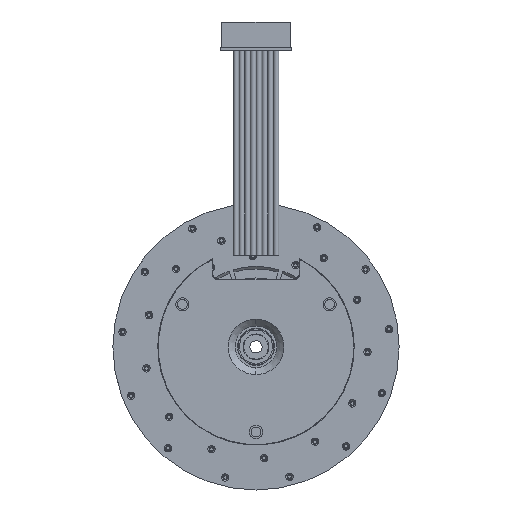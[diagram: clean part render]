
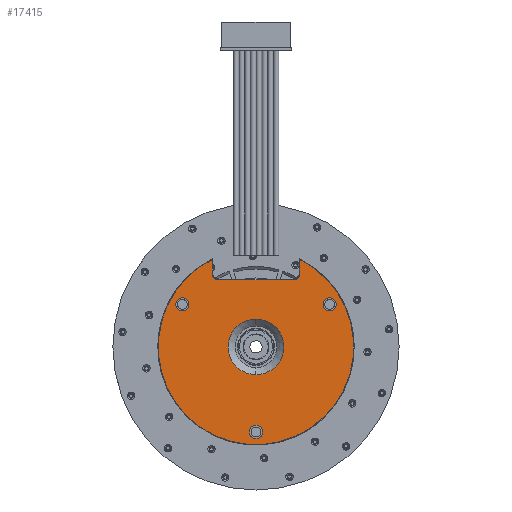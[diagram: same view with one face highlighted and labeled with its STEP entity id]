
A CAD part, front view. The second image highlights one B-rep face of the part: STEP entity #17415.
In plain terms, the highlighted planar face has unit normal (0, -1, 0).
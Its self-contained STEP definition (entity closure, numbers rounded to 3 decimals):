
#15933=CARTESIAN_POINT('',(0.,-8.381,
0.));
#15934=DIRECTION('',(0.,1.,0.));
#15935=DIRECTION('',(0.45,0.,0.893));
#15936=AXIS2_PLACEMENT_3D('',#15933,#15934,#15935);
#15938=CARTESIAN_POINT('',(0.,-8.381,
0.));
#15939=DIRECTION('',(0.,1.,0.));
#15940=DIRECTION('',(-0.432,0.,-0.902));
#15941=AXIS2_PLACEMENT_3D('',#15938,#15939,#15940);
#15943=CARTESIAN_POINT('',(0.,-8.381,
0.));
#15944=DIRECTION('',(0.,1.,0.));
#15945=DIRECTION('',(-0.45,0.,-0.893));
#15946=AXIS2_PLACEMENT_3D('',#15943,#15944,#15945);
#15948=CARTESIAN_POINT('',(-10.746,-8.381,
18.018));
#15949=CARTESIAN_POINT('',(-10.746,-8.381,
17.868));
#15950=CARTESIAN_POINT('',(-10.707,-8.381,
17.582));
#15951=CARTESIAN_POINT('',(-10.539,-8.381,
17.18));
#15952=CARTESIAN_POINT('',(-10.276,-8.381,
16.838));
#15953=CARTESIAN_POINT('',(-9.934,-8.381,
16.575));
#15954=CARTESIAN_POINT('',(-9.531,-8.381,
16.407));
#15955=CARTESIAN_POINT('',(-9.245,-8.381,
16.368));
#15956=CARTESIAN_POINT('',(-9.096,-8.381,
16.368));
#15958=CARTESIAN_POINT('',(9.096,-8.381,
16.368));
#15959=CARTESIAN_POINT('',(9.245,-8.381,
16.368));
#15960=CARTESIAN_POINT('',(9.531,-8.381,
16.407));
#15961=CARTESIAN_POINT('',(9.934,-8.381,
16.574));
#15962=CARTESIAN_POINT('',(10.275,-8.381,
16.837));
#15963=CARTESIAN_POINT('',(10.539,-8.381,
17.179));
#15964=CARTESIAN_POINT('',(10.707,-8.381,
17.582));
#15965=CARTESIAN_POINT('',(10.746,-8.381,
17.868));
#15966=CARTESIAN_POINT('',(10.746,-8.381,
18.018));
#15968=CARTESIAN_POINT('',(18.013,-8.381,
10.4));
#15969=DIRECTION('',(0.,-1.,0.));
#15970=DIRECTION('',(1.,0.,0.));
#15971=AXIS2_PLACEMENT_3D('',#15968,#15969,#15970);
#15973=CARTESIAN_POINT('',(18.013,-8.381,
10.4));
#15974=DIRECTION('',(0.,-1.,0.));
#15975=DIRECTION('',(-1.,0.,0.));
#15976=AXIS2_PLACEMENT_3D('',#15973,#15974,#15975);
#15978=CARTESIAN_POINT('',(-18.013,-8.381,
10.4));
#15979=DIRECTION('',(0.,-1.,0.));
#15980=DIRECTION('',(1.,0.,0.));
#15981=AXIS2_PLACEMENT_3D('',#15978,#15979,#15980);
#15983=CARTESIAN_POINT('',(-18.013,-8.381,
10.4));
#15984=DIRECTION('',(0.,-1.,0.));
#15985=DIRECTION('',(-1.,0.,0.));
#15986=AXIS2_PLACEMENT_3D('',#15983,#15984,#15985);
#15988=CARTESIAN_POINT('',(0.,-8.381,
-20.8));
#15989=DIRECTION('',(0.,-1.,0.));
#15990=DIRECTION('',(-1.,0.,0.));
#15991=AXIS2_PLACEMENT_3D('',#15988,#15989,#15990);
#15993=CARTESIAN_POINT('',(0.,-8.381,
-20.8));
#15994=DIRECTION('',(0.,-1.,0.));
#15995=DIRECTION('',(1.,0.,0.));
#15996=AXIS2_PLACEMENT_3D('',#15993,#15994,#15995);
#15998=CARTESIAN_POINT('',(0.,-8.381,
0.));
#15999=DIRECTION('',(0.,-1.,0.));
#16000=DIRECTION('',(0.,0.,1.));
#16001=AXIS2_PLACEMENT_3D('',#15998,#15999,#16000);
#16003=CARTESIAN_POINT('',(0.,-8.381,
0.));
#16004=DIRECTION('',(0.,-1.,0.));
#16005=DIRECTION('',(0.,0.,-1.));
#16006=AXIS2_PLACEMENT_3D('',#16003,#16004,#16005);
#16033=CARTESIAN_POINT('',(-10.746,-8.381,
21.353));
#16056=DIRECTION('',(0.,0.,1.));
#16057=VECTOR('',#16056,3.335);
#16058=CARTESIAN_POINT('',(-10.746,-8.381,
18.018));
#16059=LINE('',#16058,#16057);
#16531=DIRECTION('',(0.,0.,-1.));
#16532=VECTOR('',#16531,3.335);
#16533=CARTESIAN_POINT('',(10.746,-8.381,
21.353));
#16534=LINE('',#16533,#16532);
#16545=DIRECTION('',(-1.,0.,0.));
#16546=VECTOR('',#16545,18.192);
#16547=CARTESIAN_POINT('',(9.096,-8.381,
16.368));
#16548=LINE('',#16547,#16546);
#16781=VERTEX_POINT('',#16033);
#16782=CARTESIAN_POINT('',(-10.746,-8.381,
18.018));
#16783=VERTEX_POINT('',#16782);
#16792=CARTESIAN_POINT('',(10.746,-8.381,
21.353));
#16793=CARTESIAN_POINT('',(-10.335,-8.381,
-21.555));
#16794=VERTEX_POINT('',#16792);
#16795=VERTEX_POINT('',#16793);
#16796=CARTESIAN_POINT('',(-10.746,-8.381,
-21.353));
#16797=VERTEX_POINT('',#16796);
#16802=CARTESIAN_POINT('',(10.746,-8.381,
18.018));
#16803=VERTEX_POINT('',#16802);
#16815=CARTESIAN_POINT('',(19.631,-8.381,
10.4));
#16816=CARTESIAN_POINT('',(16.396,-8.381,
10.4));
#16817=VERTEX_POINT('',#16815);
#16818=VERTEX_POINT('',#16816);
#16819=VERTEX_POINT('',#15956);
#16820=CARTESIAN_POINT('',(9.096,-8.381,
16.368));
#16821=VERTEX_POINT('',#16820);
#16822=CARTESIAN_POINT('',(-16.396,-8.381,
10.4));
#16823=CARTESIAN_POINT('',(-19.631,-8.381,
10.4));
#16824=VERTEX_POINT('',#16822);
#16825=VERTEX_POINT('',#16823);
#16826=CARTESIAN_POINT('',(-1.617,-8.381,
-20.8));
#16827=CARTESIAN_POINT('',(1.617,-8.381,
-20.8));
#16828=VERTEX_POINT('',#16826);
#16829=VERTEX_POINT('',#16827);
#16830=CARTESIAN_POINT('',(0.,-8.381,
6.8));
#16831=CARTESIAN_POINT('',(0.,-8.381,
-6.8));
#16832=VERTEX_POINT('',#16830);
#16833=VERTEX_POINT('',#16831);
#17370=CARTESIAN_POINT('',(0.,-8.381,
0.));
#17371=DIRECTION('',(0.,1.,0.));
#17372=DIRECTION('',(-1.,0.,0.));
#17373=AXIS2_PLACEMENT_3D('',#17370,#17371,#17372);
#17374=PLANE('',#17373);
#17376=ORIENTED_EDGE('',*,*,#17375,.T.);
#17378=ORIENTED_EDGE('',*,*,#17377,.T.);
#17380=ORIENTED_EDGE('',*,*,#17379,.T.);
#17382=ORIENTED_EDGE('',*,*,#17381,.F.);
#17384=ORIENTED_EDGE('',*,*,#17383,.T.);
#17386=ORIENTED_EDGE('',*,*,#17385,.F.);
#17388=ORIENTED_EDGE('',*,*,#17387,.T.);
#17390=ORIENTED_EDGE('',*,*,#17389,.F.);
#17391=EDGE_LOOP('',(#17376,#17378,#17380,#17382,#17384,#17386,#17388,#17390));
#17392=FACE_OUTER_BOUND('',#17391,.F.);
#17394=ORIENTED_EDGE('',*,*,#17393,.T.);
#17396=ORIENTED_EDGE('',*,*,#17395,.T.);
#17397=EDGE_LOOP('',(#17394,#17396));
#17398=FACE_BOUND('',#17397,.F.);
#17400=ORIENTED_EDGE('',*,*,#17399,.T.);
#17402=ORIENTED_EDGE('',*,*,#17401,.T.);
#17403=EDGE_LOOP('',(#17400,#17402));
#17404=FACE_BOUND('',#17403,.F.);
#17406=ORIENTED_EDGE('',*,*,#17405,.T.);
#17408=ORIENTED_EDGE('',*,*,#17407,.T.);
#17409=EDGE_LOOP('',(#17406,#17408));
#17410=FACE_BOUND('',#17409,.F.);
#17411=ORIENTED_EDGE('',*,*,#17338,.T.);
#17412=ORIENTED_EDGE('',*,*,#17316,.T.);
#17413=EDGE_LOOP('',(#17411,#17412));
#17414=FACE_BOUND('',#17413,.F.);
#17415=ADVANCED_FACE('',(#17392,#17398,#17404,#17410,#17414),#17374,.F.);
#15937=CIRCLE('',#15936,23.904);
#15942=CIRCLE('',#15941,23.904);
#15947=CIRCLE('',#15946,23.904);
#15957=B_SPLINE_CURVE_WITH_KNOTS('',3,(#15948,#15949,#15950,#15951,#15952,
#15953,#15954,#15955,#15956),.UNSPECIFIED.,.F.,.F.,(4,1,1,1,1,1,4),(0.,
0.167,0.333,0.5,0.667,0.833,
1.),.UNSPECIFIED.);
#15967=B_SPLINE_CURVE_WITH_KNOTS('',3,(#15958,#15959,#15960,#15961,#15962,
#15963,#15964,#15965,#15966),.UNSPECIFIED.,.F.,.F.,(4,1,1,1,1,1,4),(0.,
0.167,0.333,0.5,0.667,0.833,
1.),.UNSPECIFIED.);
#15972=CIRCLE('',#15971,1.617);
#15977=CIRCLE('',#15976,1.617);
#15982=CIRCLE('',#15981,1.617);
#15987=CIRCLE('',#15986,1.617);
#15992=CIRCLE('',#15991,1.617);
#15997=CIRCLE('',#15996,1.617);
#16002=CIRCLE('',#16001,6.8);
#16007=CIRCLE('',#16006,6.8);
#17316=EDGE_CURVE('',#16833,#16832,#16007,.T.);
#17338=EDGE_CURVE('',#16832,#16833,#16002,.T.);
#17375=EDGE_CURVE('',#16794,#16795,#15937,.T.);
#17377=EDGE_CURVE('',#16795,#16797,#15942,.T.);
#17379=EDGE_CURVE('',#16797,#16781,#15947,.T.);
#17381=EDGE_CURVE('',#16783,#16781,#16059,.T.);
#17383=EDGE_CURVE('',#16783,#16819,#15957,.T.);
#17385=EDGE_CURVE('',#16821,#16819,#16548,.T.);
#17387=EDGE_CURVE('',#16821,#16803,#15967,.T.);
#17389=EDGE_CURVE('',#16794,#16803,#16534,.T.);
#17393=EDGE_CURVE('',#16817,#16818,#15972,.T.);
#17395=EDGE_CURVE('',#16818,#16817,#15977,.T.);
#17399=EDGE_CURVE('',#16824,#16825,#15982,.T.);
#17401=EDGE_CURVE('',#16825,#16824,#15987,.T.);
#17405=EDGE_CURVE('',#16828,#16829,#15992,.T.);
#17407=EDGE_CURVE('',#16829,#16828,#15997,.T.);
